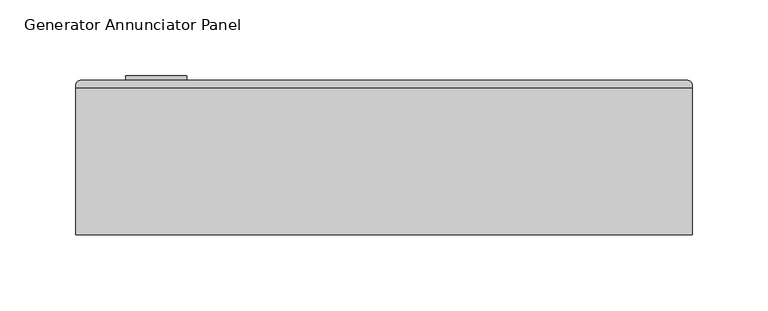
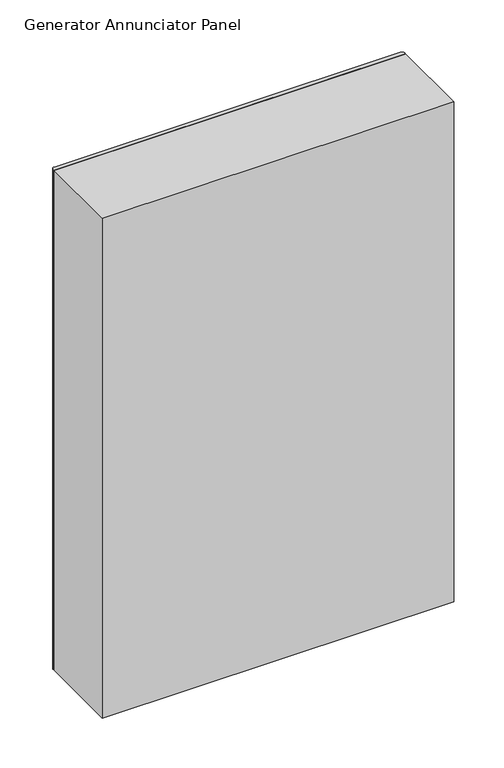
"""IFC4 building model written with IfcOpenShell, lengths in millimetres: proxy geometry, Generator_Annunciator_Panel_Wallmount_with_3inch_Strut_BIM_Model : Generator Annunciator Panel."""

from ifc_helpers import new_model, si_unit, point, frame, frame_2d, origin, place, context, project, spatial, polyline, circle_curve, trimmed, segment, composite_curve, outline, extrude, source, transform, mapped, element, save


def generator_annunciator_panel_f71a6436(model_context):
    return source(origin(), model_context, "Body", "SweptSolid", [
        extrude(outline(composite_curve([segment(trimmed(circle_curve(frame_2d((841.0, -25.0)), 20.0), [point((841.0, -45.0))], [point((841.0, -5.0))], False, "CARTESIAN"), True, "CONTINUOUS"), segment(trimmed(circle_curve(frame_2d((841.0, -25.0)), 20.0), [point((841.0, -5.0))], [point((841.0, -45.0))], False, "CARTESIAN"), True, "CONTINUOUS")], self_intersect=False), holes=[polyline([(848.2746144, -28.1017201), (848.2746144, -21.9806797), (833.2746144, -21.9806797), (833.2746144, -28.1017201), (848.2746144, -28.1017201)])]), frame((0.0, 432.0, 0.0), z_axis=(0.0, 1.0, 0.0), x_axis=(0.0, 0.0, 1.0)), (0.0, 0.0, 1.0), 3.0),
        extrude(outline(composite_curve([segment(trimmed(circle_curve(frame_2d((325.0, 429.0)), 3.0), [point((325.0, 432.0))], [point((328.0, 429.0))], False, "CARTESIAN"), True, "CONTINUOUS"), segment(polyline([(328.0, 429.0), (328.0, 427.1182851), (-78.0, 427.1182851), (-78.0, 429.0)]), True, "CONTINUOUS"), segment(trimmed(circle_curve(frame_2d((-75.0, 429.0)), 3.0), [point((-78.0, 429.0))], [point((-75.0, 432.0))], False, "CARTESIAN"), True, "CONTINUOUS"), segment(polyline([(-75.0, 432.0), (325.0, 432.0)]), True, "CONTINUOUS")], self_intersect=False)), frame((0.0, 0.0, 460.0), z_axis=(0.0, 0.0, 1.0), x_axis=(1.0, 0.0, 0.0)), (0.0, 0.0, 1.0), 610.0),
        extrude(outline(polyline([(328.0, 427.1182851), (328.0, 330.3334431), (-78.0, 330.3334431), (-78.0, 427.1182851), (328.0, 427.1182851)])), frame((0.0, 0.0, 460.0), z_axis=(0.0, 0.0, 1.0), x_axis=(1.0, 0.0, 0.0)), (0.0, 0.0, 1.0), 610.0),
    ])


if __name__ == "__main__":
    model = new_model("IFC4")
    model_context = context("Model", 3, world=origin())
    ifc_project = project(units=[si_unit("LENGTHUNIT", "METRE", prefix="MILLI")], contexts=[model_context])
    site = spatial("IfcSite", under=ifc_project)
    building = spatial("IfcBuilding", under=site)
    placement = place(None, origin())
    generator_annunciator_panel_shape = generator_annunciator_panel_f71a6436(model_context)
    element("IfcBuildingElementProxy", 1, Name="Generator_Annunciator_Panel_Wallmount_with_3inch_Strut_BIM_Model : Generator Annunciator Panel", ObjectType="Generator_Annunciator_Panel_Wallmount_with_3inch_Strut_BIM_Model : Generator Annunciator Panel", at=placement, inside=building, context=model_context, shape_type="MappedRepresentation", body=[
        mapped(generator_annunciator_panel_shape, transform((0.0, 0.0, 0.0), x_axis=(1.0, 0.0, 0.0), y_axis=(0.0, 1.0, 0.0), z_axis=(0.0, 0.0, 1.0))),
    ])
    save(model, "model.ifc")
